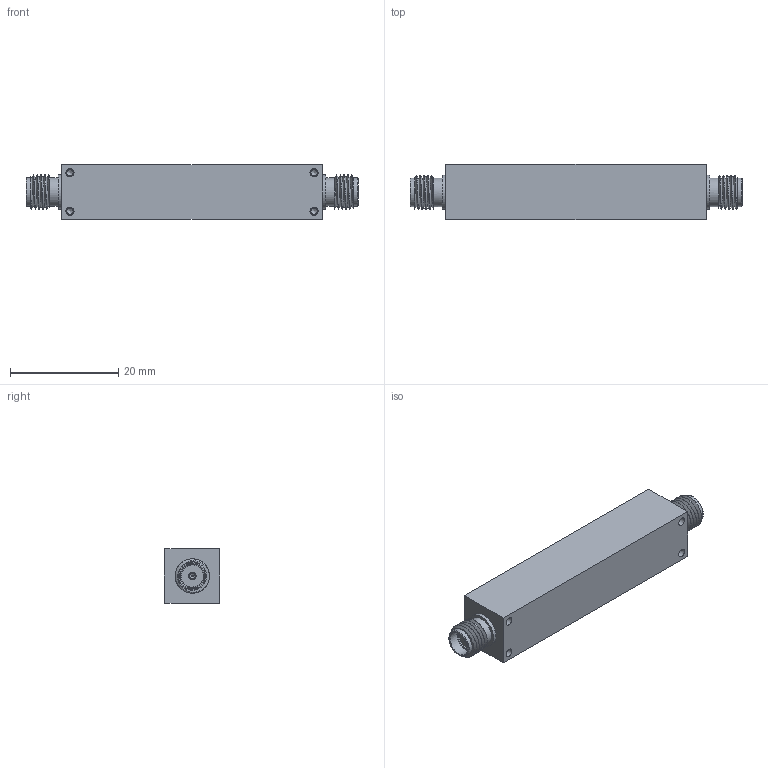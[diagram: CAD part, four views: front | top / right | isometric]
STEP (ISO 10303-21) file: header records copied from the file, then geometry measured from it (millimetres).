
FILE_DESCRIPTION (( 'STEP AP214' ), '1' );
FILE_NAME ('8CL10G-200-CD-SFF.STEP', '2026-02-04T21:43:14', ( '' ), ( '' ), 'SwSTEP 2.0', 'SolidWorks 2025', '' );
FILE_SCHEMA (( 'AUTOMOTIVE_DESIGN' ));
Length unit declared in the file: inch
Products named in the file (1): 8CL10G-200-CD-SFF
Bounding box: 61.47 x 10.29 x 10.16 mm (x, y, z)
Volume: 5424.4 mm3; surface area: 3858.4 mm2
Topology: 4 solids, 6 shells, 995 faces, 3458 edges, 2614 vertices
Faces by surface type: cylinder 418, torus 402, plane 163, cone 8, bspline 4
Full cylindrical faces by diameter (mm): 0.305 x2, 1.016 x2, 1.191 x4, 1.27 x4, 1.524 x4, 4.191 x2, 4.597 x2, 5.283 x6, 6.35 x2
Entity records: 70122 total; most frequent: CARTESIAN_POINT 27606, ORIENTED_EDGE 6788, DIRECTION 5650, EDGE_CURVE 3394, VERTEX_POINT 2604, AXIS2_PLACEMENT_3D 2335, CIRCLE 1343, EDGE_LOOP 1188
